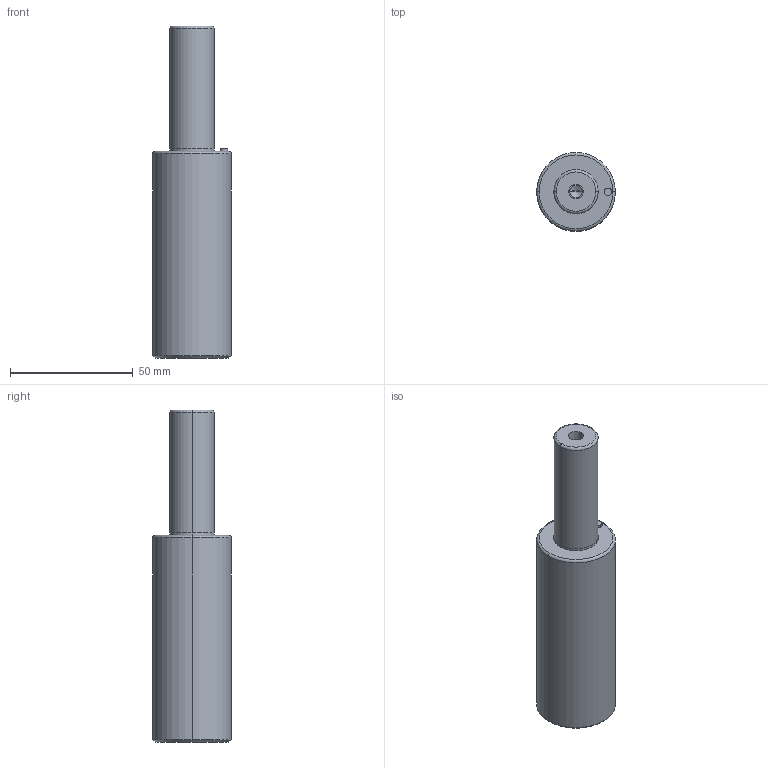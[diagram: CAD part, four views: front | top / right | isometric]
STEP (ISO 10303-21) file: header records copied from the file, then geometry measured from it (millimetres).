
FILE_DESCRIPTION(/* description */ (''),/* implementation_level */ '2;1');
FILE_NAME(/* name */ '3d_gsc32-50_03843_r00.stp',/* time_stamp */ '2011-01-10T14:15:22+09:00',/* author */ ('MISUMI'),/* organization */ (''),/* preprocessor_version */ 'ST-DEVELOPER v11',/* originating_system */ 'UGS - NX 5.0',/* authorisation */ '');
FILE_SCHEMA (('CONFIG_CONTROL_DESIGN'));
Length unit declared in the file: millimetre
Products named in the file (1): 3d_gsc32-50_03843_r00
Bounding box: 32 x 32 x 135 mm (x, y, z)
Volume: 79870.4 mm3; surface area: 13219.9 mm2
Topology: 1 solids, 1 shells, 32 faces, 66 edges, 38 vertices
Faces by surface type: cylinder 16, cone 6, plane 6, torus 4
Entity records: 912 total; most frequent: DIRECTION 168, CARTESIAN_POINT 133, ORIENTED_EDGE 124, AXIS2_PLACEMENT_3D 73, EDGE_CURVE 62, CIRCLE 40, EDGE_LOOP 38, VERTEX_POINT 38
